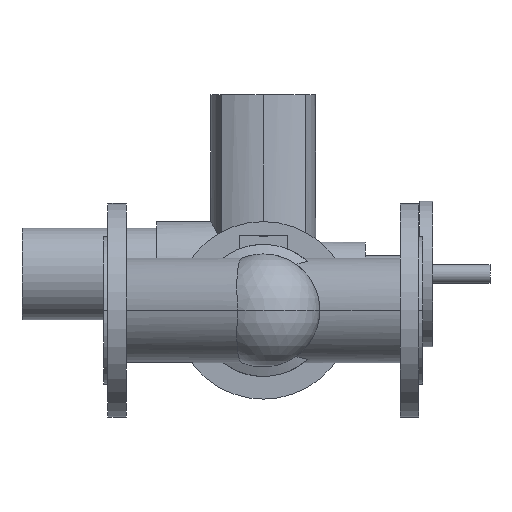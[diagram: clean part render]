
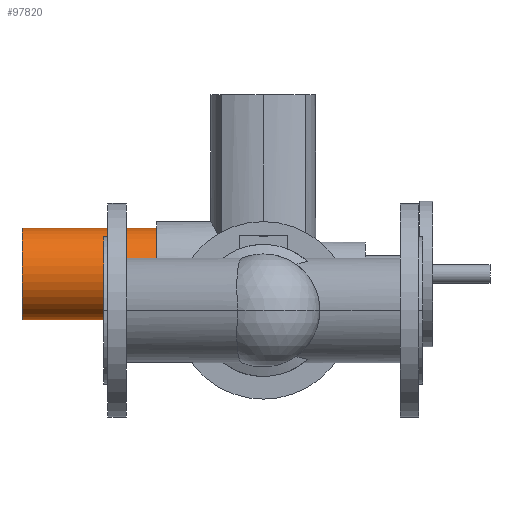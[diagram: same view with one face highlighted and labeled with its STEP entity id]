
A CAD part, front view. The second image highlights one B-rep face of the part: STEP entity #97820.
In plain terms, the highlighted cylindrical face has radius 50.5 mm (diameter 101 mm), a partial arc.
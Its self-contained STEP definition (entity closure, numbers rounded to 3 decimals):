
#53100=CARTESIAN_POINT('',(-16.,699.2,40.));
#53110=DIRECTION('',(1.,0.,0.));
#53120=DIRECTION('',(0.,0.,-1.));
#53130=AXIS2_PLACEMENT_3D('',#53100,#53110,#53120);
#53140=CYLINDRICAL_SURFACE('',#53130,50.5);
#53150=CARTESIAN_POINT('',(-16.,699.2,90.5));
#53160=DIRECTION('',(1.,0.,0.));
#53170=VECTOR('',#53160,1.);
#53180=LINE('',#53150,#53170);
#53190=CARTESIAN_POINT('',(-90.,699.2,90.5));
#53200=VERTEX_POINT('',#53190);
#53210=CARTESIAN_POINT('',(58.,699.2,90.5));
#53220=VERTEX_POINT('',#53210);
#53230=SURFACE_CURVE('',#53180,(#53140,#53140),.CURVE_3D.);
#53240=EDGE_CURVE('',#53200,#53220,#53230,.T.);
#53260=CARTESIAN_POINT('',(-90.,699.2,40.));
#53270=DIRECTION('',(-1.,0.,0.));
#53280=DIRECTION('',(0.,0.,-1.));
#53290=AXIS2_PLACEMENT_3D('',#53260,#53270,#53280);
#53300=CIRCLE('',#53290,50.5);
#53310=CARTESIAN_POINT('',(-90.,699.2,-10.5));
#53320=VERTEX_POINT('',#53310);
#53330=CARTESIAN_POINT('',(-90.,699.2,14.75));
#53340=DIRECTION('',(-1.,0.,0.));
#53350=DIRECTION('',(0.,0.,-1.));
#53360=AXIS2_PLACEMENT_3D('',#53330,#53340,#53350);
#53370=PLANE('',#53360);
#53410=CARTESIAN_POINT('',(-16.,699.2,-10.5));
#53420=DIRECTION('',(1.,0.,0.));
#53430=VECTOR('',#53420,1.);
#53440=LINE('',#53410,#53430);
#53450=CARTESIAN_POINT('',(58.,699.2,-10.5));
#53460=VERTEX_POINT('',#53450);
#53470=SURFACE_CURVE('',#53440,(#53140,#53140),.CURVE_3D.);
#53480=EDGE_CURVE('',#53320,#53460,#53470,.T.);
#53500=CARTESIAN_POINT('',(58.,699.2,40.));
#53510=DIRECTION('',(-1.,0.,0.));
#53520=DIRECTION('',(0.,0.,-1.));
#53530=AXIS2_PLACEMENT_3D('',#53500,#53510,#53520);
#53540=CIRCLE('',#53530,50.5);
#53550=CARTESIAN_POINT('',(58.,699.2,-14.));
#53560=DIRECTION('',(-1.,0.,0.));
#53570=DIRECTION('',(0.,0.,-1.));
#53580=AXIS2_PLACEMENT_3D('',#53550,#53560,#53570);
#53590=PLANE('',#53580);
#75360=SURFACE_CURVE('',#53540,(#53590,#53140),.CURVE_3D.);
#75370=EDGE_CURVE('',#53460,#53220,#75360,.T.);
#75710=SURFACE_CURVE('',#53300,(#53140,#53370),.CURVE_3D.);
#75720=EDGE_CURVE('',#53320,#53200,#75710,.T.);
#97760=ORIENTED_EDGE('',*,*,#53240,.F.);
#97770=ORIENTED_EDGE('',*,*,#75370,.T.);
#97780=ORIENTED_EDGE('',*,*,#53480,.T.);
#97790=ORIENTED_EDGE('',*,*,#75720,.F.);
#97800=EDGE_LOOP('',(#97790,#97780,#97770,#97760));
#97810=FACE_OUTER_BOUND('',#97800,.T.);
#97820=ADVANCED_FACE('',(#97810),#53140,.T.);
